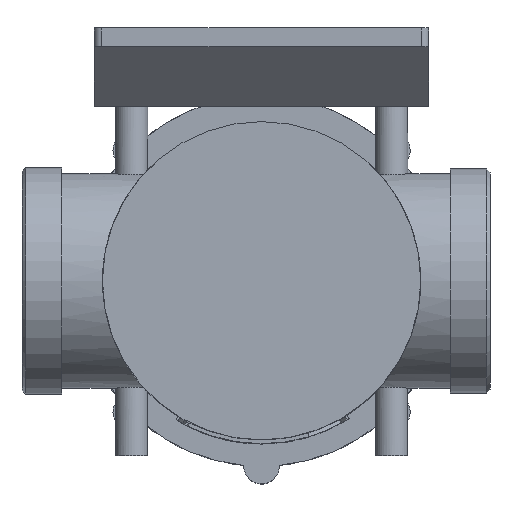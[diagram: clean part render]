
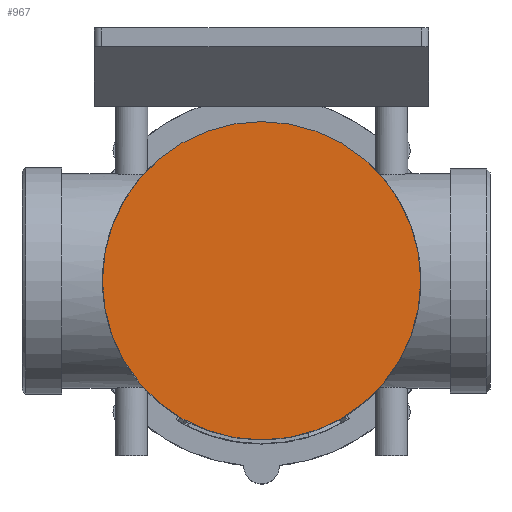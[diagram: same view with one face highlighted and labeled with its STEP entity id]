
A CAD part, top view. The second image highlights one B-rep face of the part: STEP entity #967.
In plain terms, the highlighted planar face has unit normal (0, 0, 1).
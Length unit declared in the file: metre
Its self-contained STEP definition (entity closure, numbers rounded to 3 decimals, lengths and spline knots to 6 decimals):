
#967 = ADVANCED_FACE( '', ( #2120 ), #2121, .T. );
#2120 = FACE_OUTER_BOUND( '', #8168, .T. );
#2121 = PLANE( '', #8169 );
#8168 = EDGE_LOOP( '', ( #13269, #13270 ) );
#8169 = AXIS2_PLACEMENT_3D( '', #13271, #13272, #13273 );
#13269 = ORIENTED_EDGE( '', *, *, #14812, .T. );
#13270 = ORIENTED_EDGE( '', *, *, #14817, .T. );
#13271 = CARTESIAN_POINT( '', ( 0.0015, 0., 0.0862 ) );
#13272 = DIRECTION( '', ( 0., 0., 1. ) );
#13273 = DIRECTION( '', ( 1., 0., 0. ) );
#14812 = EDGE_CURVE( '', #16456, #16447, #16457, .T. );
#14817 = EDGE_CURVE( '', #16447, #16456, #16464, .T. );
#16447 = VERTEX_POINT( '', #19373 );
#16456 = VERTEX_POINT( '', #19561 );
#16457 = CIRCLE( '', #19562, 0.04285 );
#16464 = CIRCLE( '', #19727, 0.04285 );
#19373 = CARTESIAN_POINT( '', ( 0.04435, 0., 0.0862 ) );
#19561 = CARTESIAN_POINT( '', ( -0.04135, 0., 0.0862 ) );
#19562 = AXIS2_PLACEMENT_3D( '', #24129, #24130, #24131 );
#19727 = AXIS2_PLACEMENT_3D( '', #24132, #24133, #24134 );
#24129 = CARTESIAN_POINT( '', ( 0.0015, 0., 0.0862 ) );
#24130 = DIRECTION( '', ( 0., 0., 1. ) );
#24131 = DIRECTION( '', ( 1., 0., 0. ) );
#24132 = CARTESIAN_POINT( '', ( 0.0015, 0., 0.0862 ) );
#24133 = DIRECTION( '', ( 0., 0., 1. ) );
#24134 = DIRECTION( '', ( 1., 0., 0. ) );
